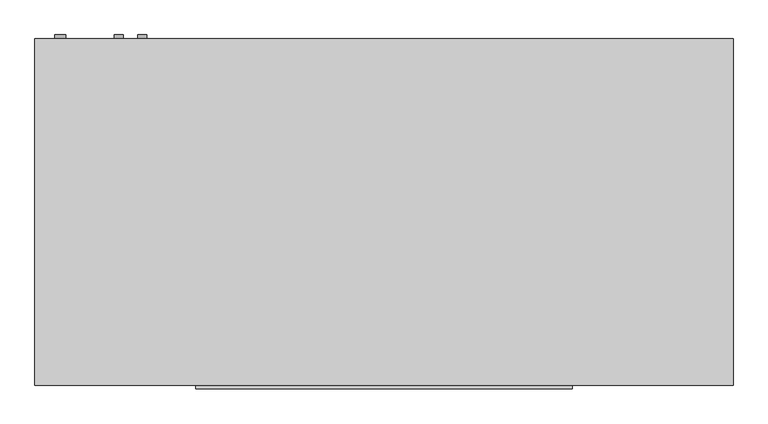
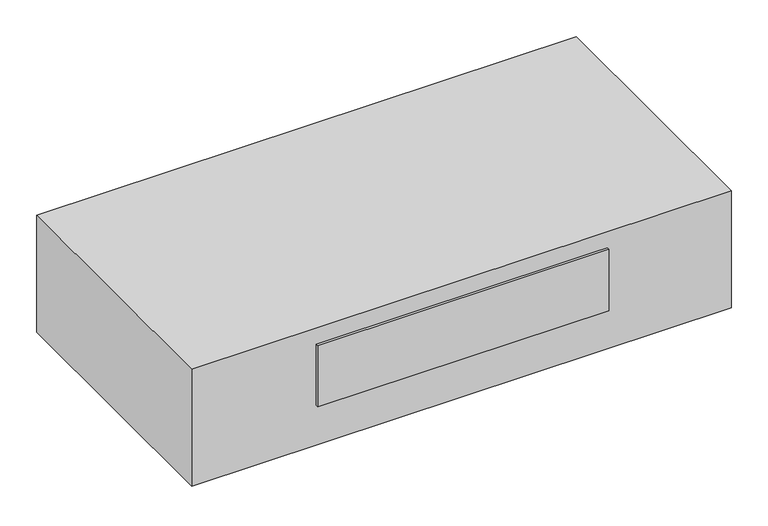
"""IFC4 building model written with IfcOpenShell, lengths in millimetres: proxy geometry, Exposed_Horizontal_Fan_Coil_Unit_-_42CGB_-_CARRIER_-_2-Pipe_Cool-EHeat_FS-BR_LH_2022 : Size 04 - 277v/60Hz/1Ph - 4 Row 3.0kW."""

from ifc_helpers import new_model, si_unit, point, frame, frame_2d, origin, place, context, project, spatial, polyline, circle_curve, trimmed, segment, composite_curve, outline, extrude, source, transform, mapped, element, save


def mechanical_equipment_9d567b45(model_context):
    return source(origin(), model_context, "Body", "SweptSolid", [
        extrude(outline(composite_curve([segment(trimmed(circle_curve(frame_2d((-60.325, -269.875)), 7.9375), [point((-60.325, -261.9375))], [point((-60.325, -277.8125))], False, "CARTESIAN"), True, "CONTINUOUS"), segment(trimmed(circle_curve(frame_2d((-60.325, -269.875)), 7.9375), [point((-60.325, -277.8125))], [point((-60.325, -261.9375))], False, "CARTESIAN"), True, "CONTINUOUS")], self_intersect=False)), frame((0.0, 65.0875, 0.0), z_axis=(0.0, 1.0, 0.0), x_axis=(0.0, 0.0, 1.0)), (0.0, 0.0, 1.0), 6.35),
        extrude(outline(composite_curve([segment(trimmed(circle_curve(frame_2d((-95.25, -311.15)), 7.9375), [point((-95.25, -303.2125))], [point((-95.25, -319.0875))], False, "CARTESIAN"), True, "CONTINUOUS"), segment(trimmed(circle_curve(frame_2d((-95.25, -311.15)), 7.9375), [point((-95.25, -319.0875))], [point((-95.25, -303.2125))], False, "CARTESIAN"), True, "CONTINUOUS")], self_intersect=False)), frame((0.0, 65.0875, 0.0), z_axis=(0.0, 1.0, 0.0), x_axis=(0.0, 0.0, 1.0)), (0.0, 0.0, 1.0), 6.35),
        extrude(outline(composite_curve([segment(trimmed(circle_curve(frame_2d((-260.35, -412.75)), 9.525), [point((-260.35, -403.225))], [point((-260.35, -422.275))], False, "CARTESIAN"), True, "CONTINUOUS"), segment(trimmed(circle_curve(frame_2d((-260.35, -412.75)), 9.525), [point((-260.35, -422.275))], [point((-260.35, -403.225))], False, "CARTESIAN"), True, "CONTINUOUS")], self_intersect=False)), frame((0.0, 65.0875, 0.0), z_axis=(0.0, 1.0, 0.0), x_axis=(0.0, 0.0, 1.0)), (0.0, 0.0, 1.0), 6.35),
        extrude(outline(polyline([(-457.2, 65.0875), (762.0, 65.0875), (762.0, -541.3375), (-457.2, -541.3375), (-457.2, 65.0875)])), frame((0.0, 0.0, -279.4), z_axis=(0.0, 0.0, 1.0), x_axis=(1.0, 0.0, 0.0)), (0.0, 0.0, 1.0), 279.4),
        extrude(outline(polyline([(481.0125, -547.6875), (-176.2125, -547.6875), (-176.2125, -541.3375), (481.0125, -541.3375), (481.0125, -547.6875)])), frame((0.0, 0.0, -184.15), z_axis=(0.0, 0.0, 1.0), x_axis=(1.0, 0.0, 0.0)), (0.0, 0.0, 1.0), 146.05),
        extrude(outline(polyline([(565.15, -11.1125), (565.15, -265.1125), (-260.35, -265.1125), (-260.35, -11.1125), (565.15, -11.1125)])), frame((0.0, 0.0, -285.75), z_axis=(0.0, 0.0, 1.0), x_axis=(1.0, 0.0, 0.0)), (0.0, 0.0, 1.0), 6.35),
    ])


if __name__ == "__main__":
    model = new_model("IFC4")
    model_context = context("Model", 3, world=origin())
    ifc_project = project(units=[si_unit("LENGTHUNIT", "METRE", prefix="MILLI")], contexts=[model_context])
    site = spatial("IfcSite", under=ifc_project)
    building = spatial("IfcBuilding", under=site)
    placement = place(None, origin())
    mechanical_equipment_shape = mechanical_equipment_9d567b45(model_context)
    element("IfcBuildingElementProxy", 1, Name="Exposed_Horizontal_Fan_Coil_Unit_-_42CGB_-_CARRIER_-_2-Pipe_Cool-EHeat_FS-BR_LH_2022 : Size 04 - 277v/60Hz/1Ph - 4 Row 3.0kW", ObjectType="Exposed_Horizontal_Fan_Coil_Unit_-_42CGB_-_CARRIER_-_2-Pipe_Cool-EHeat_FS-BR_LH_2022 : Size 04 - 277v/60Hz/1Ph - 4 Row 3.0kW", at=placement, inside=building, context=model_context, shape_type="MappedRepresentation", body=[
        mapped(mechanical_equipment_shape, transform((0.0, 0.0, 0.0), x_axis=(1.0, 0.0, 0.0), y_axis=(0.0, 1.0, 0.0), z_axis=(0.0, 0.0, 1.0))),
    ])
    save(model, "model.ifc")
